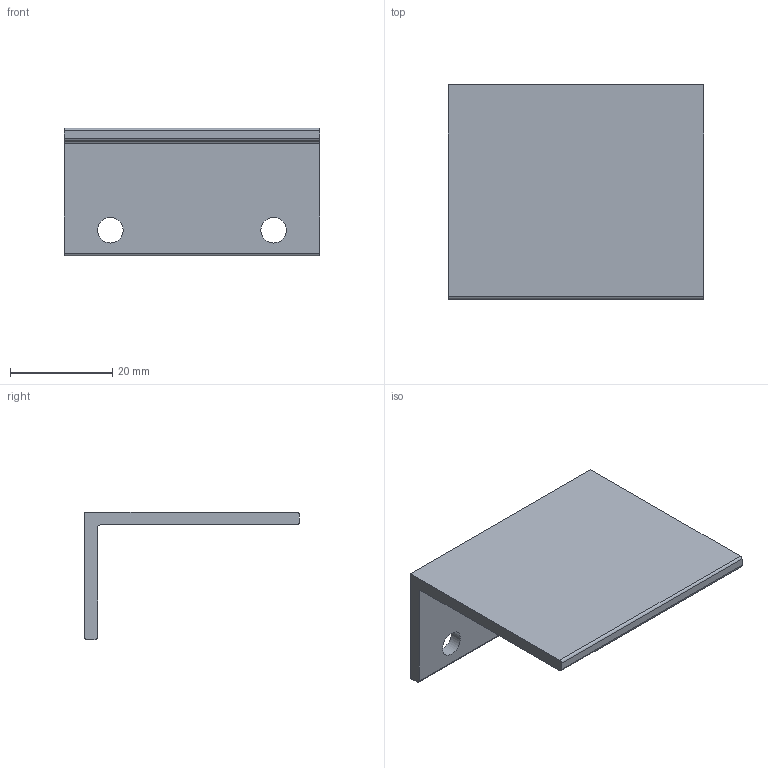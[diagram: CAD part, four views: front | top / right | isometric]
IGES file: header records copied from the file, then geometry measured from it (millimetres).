
Start section: Data from Parasolid IGES Translator 15.0.47, Copyright(c) 2006 Siemens P LM Software. All Rights Reserved.
Global section: file name:  9070583.igs; native system:  By UGS Corp.; preprocessor: XPlus GENERIC/IGES 3.0; author: Noname; organization: Noname; date: 20140122.182718; units: millimetre
Bounding box: 50 x 42 x 25 mm (x, y, z)
Surface area: 6968.5 mm2 (no closed solid volume)
Topology: 0 solids, 0 shells, 15 faces, 78 edges, 75 vertices
Faces by surface type: extrusion 8, revolution 7
